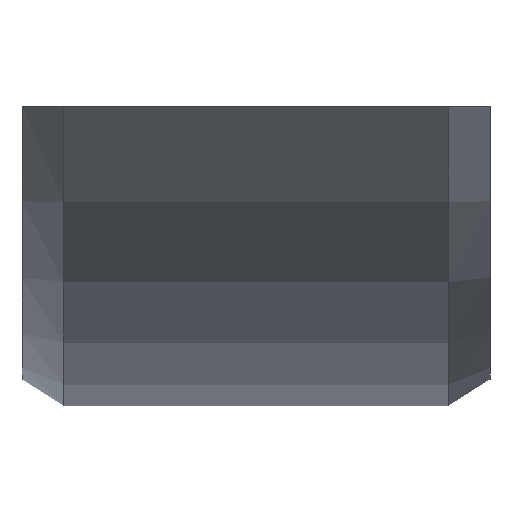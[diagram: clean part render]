
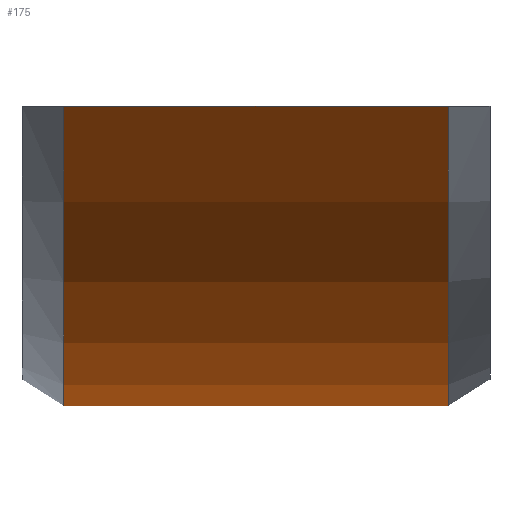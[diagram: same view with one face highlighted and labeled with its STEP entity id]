
A CAD part, front view. The second image highlights one B-rep face of the part: STEP entity #175.
In plain terms, the highlighted cylindrical face has radius 50 mm (diameter 100 mm), a partial arc.
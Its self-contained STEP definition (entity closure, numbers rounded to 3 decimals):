
#16=CYLINDRICAL_SURFACE('',#215,50.);
#22=CIRCLE('',#207,50.);
#26=CIRCLE('',#214,50.);
#34=FACE_OUTER_BOUND('',#44,.T.);
#44=EDGE_LOOP('',(#152,#153,#154,#155));
#55=LINE('',#284,#67);
#61=LINE('',#304,#73);
#67=VECTOR('',#227,10.);
#73=VECTOR('',#233,10.);
#80=VERTEX_POINT('',#279);
#81=VERTEX_POINT('',#283);
#88=VERTEX_POINT('',#299);
#89=VERTEX_POINT('',#303);
#96=EDGE_CURVE('',#81,#80,#55,.T.);
#104=EDGE_CURVE('',#89,#88,#61,.T.);
#110=EDGE_CURVE('',#81,#88,#22,.T.);
#114=EDGE_CURVE('',#80,#89,#26,.T.);
#152=ORIENTED_EDGE('',*,*,#104,.T.);
#153=ORIENTED_EDGE('',*,*,#110,.F.);
#154=ORIENTED_EDGE('',*,*,#96,.T.);
#155=ORIENTED_EDGE('',*,*,#114,.T.);
#175=ADVANCED_FACE('',(#34),#16,.T.);
#207=AXIS2_PLACEMENT_3D('',#316,#244,#245);
#214=AXIS2_PLACEMENT_3D('',#323,#258,#259);
#215=AXIS2_PLACEMENT_3D('',#324,#260,#261);
#227=DIRECTION('',(1.,0.,0.));
#233=DIRECTION('',(-1.,0.,0.));
#244=DIRECTION('center_axis',(-1.,0.,0.));
#245=DIRECTION('ref_axis',(0.,0.866,-0.5));
#258=DIRECTION('center_axis',(-1.,0.,0.));
#259=DIRECTION('ref_axis',(0.,0.866,-0.5));
#260=DIRECTION('center_axis',(-1.,0.,0.));
#261=DIRECTION('ref_axis',(0.,0.866,-0.5));
#279=CARTESIAN_POINT('',(10.2,36.661,0.));
#283=CARTESIAN_POINT('',(-10.2,36.661,0.));
#284=CARTESIAN_POINT('',(0.,36.661,0.));
#299=CARTESIAN_POINT('',(-10.2,-36.661,0.));
#303=CARTESIAN_POINT('',(10.2,-36.661,0.));
#304=CARTESIAN_POINT('',(0.,-36.661,0.));
#316=CARTESIAN_POINT('Origin',(-10.2,0.,34.));
#323=CARTESIAN_POINT('Origin',(10.2,0.,34.));
#324=CARTESIAN_POINT('Origin',(0.,0.,34.));
